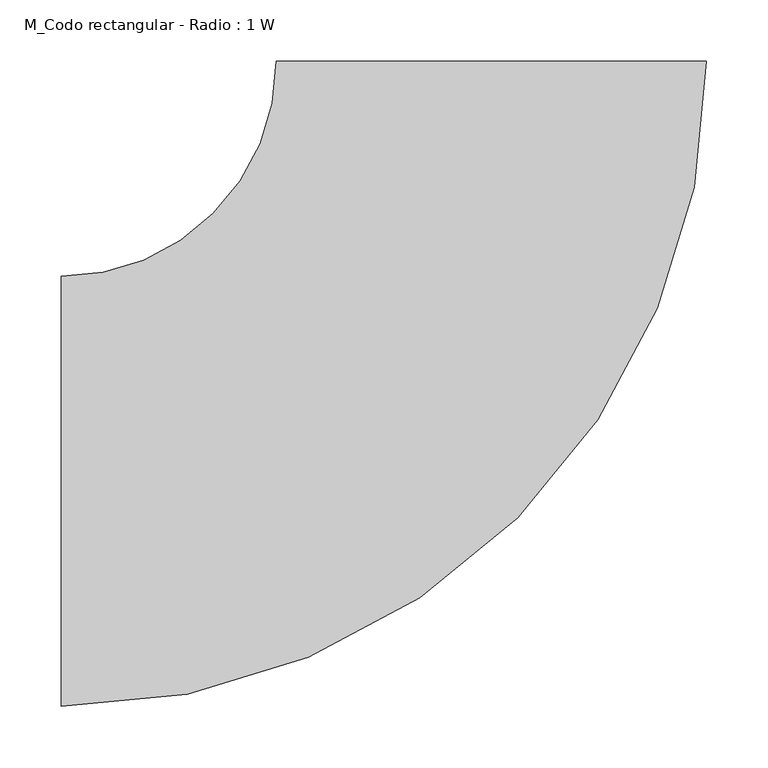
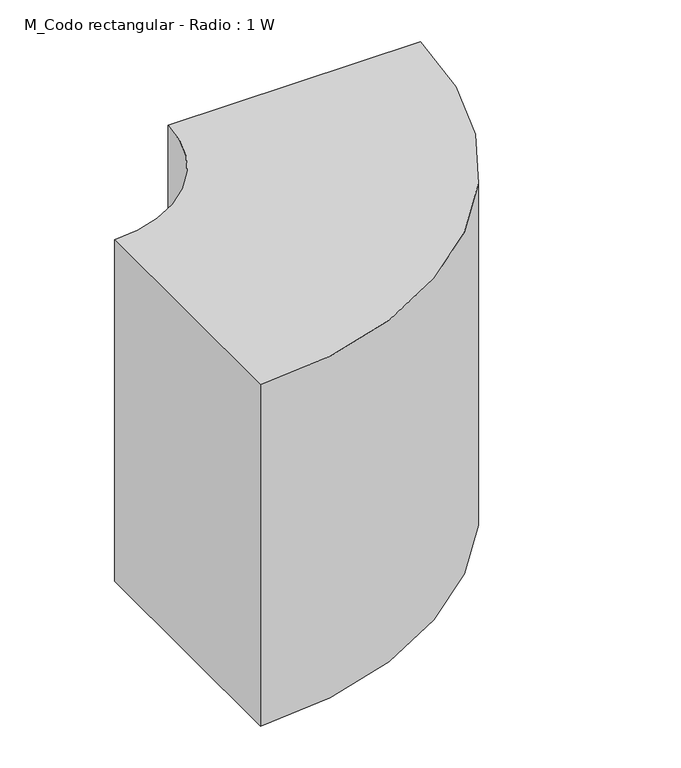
"""IFC4 building model written with IfcOpenShell, lengths in millimetres: duct fitting geometry, M_Codo rectangular - Radio : 1 W."""

import ifcopenshell
import ifcopenshell.guid

model = None  # the IFC model being written
_history = None  # IfcOwnerHistory: only IFC2X3 demands one
_inside = {}  # id of a spatial element -> (the spatial element, [elements in it])
_under = {}  # id of a project, library or spatial element -> (it, [spatial elements below it])
_declared = {}  # id of a project -> (the project, [libraries it declares])
_typed = {}  # id of a type object -> (the type object, [elements of that type])
_made_of = {}  # id of a material, layer set ... -> (it, [elements and type objects made of it])


def new_model(schema):
    """Start an empty IFC model of exactly this schema.

    Asked for "IFC4X3", IfcOpenShell would pick the latest addendum, in which some entities
    have other attributes; the version numbers below select the first issue.
    IFC2X3 requires an IfcOwnerHistory on every rooted entity: one is made here for all.
    """
    global model, _history
    if schema == "IFC4X3":
        model = ifcopenshell.file(schema_version=(4, 3, 0, 0))
    else:
        model = ifcopenshell.file(schema=schema)
    _inside.clear()
    _under.clear()
    _declared.clear()
    _typed.clear()
    _made_of.clear()
    _history = None
    if model.schema == "IFC2X3":
        org = make("IfcOrganization", Name="unknown")
        user = make(
            "IfcPersonAndOrganization",
            ThePerson=make("IfcPerson", FamilyName="unknown"),
            TheOrganization=org,
        )
        app = make(
            "IfcApplication",
            ApplicationDeveloper=org,
            Version="unknown",
            ApplicationFullName="unknown",
            ApplicationIdentifier="unknown",
        )
        _history = make(
            "IfcOwnerHistory",
            OwningUser=user,
            OwningApplication=app,
            ChangeAction="ADDED",
            CreationDate=0,
        )
    return model


def make(cls, **values):
    """One entity of the class cls with the attributes given. An attribute that is None is left unset."""
    return model.create_entity(
        cls, **{name: value for name, value in values.items() if value is not None}
    )


def rooted(cls, **values):
    """An entity with a GlobalId (a new one), such as an element, a storey or a relation."""
    return make(cls, GlobalId=ifcopenshell.guid.new(), OwnerHistory=_history, **values)


def si_unit(unit_type, name, prefix=None):
    """IfcSIUnit, for example si_unit("LENGTHUNIT", "METRE", prefix="MILLI")."""
    return make("IfcSIUnit", UnitType=unit_type, Prefix=prefix, Name=name)


def assignment(units):
    """IfcUnitAssignment: the units of a project."""
    return None if units is None else make("IfcUnitAssignment", Units=units)


def point(xyz):
    """IfcCartesianPoint."""
    return None if xyz is None else make("IfcCartesianPoint", Coordinates=xyz)


def direction(xyz):
    """IfcDirection."""
    return None if xyz is None else make("IfcDirection", DirectionRatios=xyz)


def frame(location, z_axis=None, x_axis=None):
    """IfcAxis2Placement3D, a coordinate frame: its origin and axes. An axis left out is left unset."""
    return make(
        "IfcAxis2Placement3D",
        Location=point(location),
        Axis=direction(z_axis),
        RefDirection=direction(x_axis),
    )


def frame_2d(location, x_axis=None):
    """IfcAxis2Placement2D, a coordinate frame in the plane: its origin and x axis."""
    return make(
        "IfcAxis2Placement2D", Location=point(location), RefDirection=direction(x_axis)
    )


def origin():
    """The frame at (0, 0, 0) with its axes left unset."""
    return frame((0.0, 0.0, 0.0))


def place(relative_to, where):
    """IfcLocalPlacement: puts the frame where relative to a parent placement (None: the world)."""
    return make(
        "IfcLocalPlacement", PlacementRelTo=relative_to, RelativePlacement=where
    )


def context(
    kind, dimensions, precision=None, world=None, true_north=None, identifier=None
):
    """IfcGeometricRepresentationContext, for example the 3D "Model" context."""
    return make(
        "IfcGeometricRepresentationContext",
        ContextIdentifier=identifier,
        ContextType=kind,
        CoordinateSpaceDimension=dimensions,
        Precision=precision,
        WorldCoordinateSystem=world,
        TrueNorth=true_north,
    )


def project(units=None, contexts=None):
    """IfcProject with its units and contexts."""
    return rooted(
        "IfcProject",
        Name="project",
        RepresentationContexts=contexts,
        UnitsInContext=assignment(units),
    )


def spatial(cls, under=None, at=None, **own):
    """A site, building, storey or space (cls), placed at a placement, below another one or the project."""
    s = rooted(cls, ObjectPlacement=at, **own)
    if under is not None:
        _under.setdefault(under.id(), (under, []))[1].append(s)
    return s


def polyline(points):
    """IfcPolyline through the points."""
    return make("IfcPolyline", Points=[point(p) for p in points])


def circle_curve(where, radius):
    """IfcCircle in the frame where."""
    return make("IfcCircle", Position=where, Radius=radius)


def trimmed(basis, trim1, trim2, sense, master):
    """IfcTrimmedCurve: the piece of a basis curve between two trims."""
    return make(
        "IfcTrimmedCurve",
        BasisCurve=basis,
        Trim1=trim1,
        Trim2=trim2,
        SenseAgreement=sense,
        MasterRepresentation=master,
    )


def segment(curve, same_sense, transition):
    """IfcCompositeCurveSegment."""
    return make(
        "IfcCompositeCurveSegment",
        Transition=transition,
        SameSense=same_sense,
        ParentCurve=curve,
    )


def composite_curve(segments, self_intersect=None):
    """IfcCompositeCurve: segments joined end to end."""
    return make("IfcCompositeCurve", Segments=segments, SelfIntersect=self_intersect)


def outline(outer, holes=None, kind="AREA"):
    """IfcArbitraryClosedProfileDef: a profile drawn as a closed curve; with holes, ...WithVoids."""
    if holes is None:
        return make("IfcArbitraryClosedProfileDef", ProfileType=kind, OuterCurve=outer)
    return make(
        "IfcArbitraryProfileDefWithVoids",
        ProfileType=kind,
        OuterCurve=outer,
        InnerCurves=holes,
    )


def extrude(swept, where, along, depth):
    """IfcExtrudedAreaSolid: the profile swept, set in the frame where, extruded along a direction by depth."""
    return make(
        "IfcExtrudedAreaSolid",
        SweptArea=swept,
        Position=where,
        ExtrudedDirection=direction(along),
        Depth=depth,
    )


def shape(context_of_items, identifier, shape_type, items):
    """IfcShapeRepresentation: the items that make up one representation, for example the "Body"."""
    return make(
        "IfcShapeRepresentation",
        ContextOfItems=context_of_items,
        RepresentationIdentifier=identifier,
        RepresentationType=shape_type,
        Items=items,
    )


def source(mapping_origin, context_of_items, identifier, shape_type, items):
    """IfcRepresentationMap: a shape defined once, which mapped items show again and again."""
    return make(
        "IfcRepresentationMap",
        MappingOrigin=mapping_origin,
        MappedRepresentation=shape(context_of_items, identifier, shape_type, items),
    )


def transform(
    local_origin,
    x_axis=None,
    y_axis=None,
    z_axis=None,
    scale=None,
    scale2=None,
    scale3=None,
    uniform=True,
):
    """IfcCartesianTransformationOperator3D, or its non-uniform kind. x_axis, y_axis, z_axis: its Axis1, 2, 3."""
    if uniform:
        return make(
            "IfcCartesianTransformationOperator3D",
            Axis1=direction(x_axis),
            Axis2=direction(y_axis),
            LocalOrigin=point(local_origin),
            Scale=scale,
            Axis3=direction(z_axis),
        )
    return make(
        "IfcCartesianTransformationOperator3DnonUniform",
        Axis1=direction(x_axis),
        Axis2=direction(y_axis),
        LocalOrigin=point(local_origin),
        Scale=scale,
        Axis3=direction(z_axis),
        Scale2=scale2,
        Scale3=scale3,
    )


def mapped(mapping_source, mapping_target):
    """IfcMappedItem: shows the shape of a source again, moved by a transform."""
    return make(
        "IfcMappedItem", MappingSource=mapping_source, MappingTarget=mapping_target
    )


def made_of(thing, what):
    """Note that an element or type object is made of a material, layer set ...; save() writes the relation."""
    if what is not None:
        _made_of.setdefault(what.id(), (what, []))[1].append(thing)
    return thing


def element(
    cls,
    number,
    at=None,
    inside=None,
    cuts=None,
    type_object=None,
    material=None,
    context=None,
    identifier="Body",
    shape_type=None,
    held_by="IfcProductDefinitionShape",
    body=None,
    shapes=None,
    **own,
):
    """One element of the class cls, such as IfcWall. Its Tag is "e" and its number.

    at: its placement. inside: the storey or other place that contains it. cuts: it is an
    opening in that element (IfcRelVoidsElement). A single representation is given by context,
    identifier, shape_type and body (its items); several are given by shapes. held_by: the class
    of the entity that holds the representations. save() writes the other relations.
    """
    e = rooted(cls, Tag="e%d" % number, ObjectPlacement=at, **own)
    if body is not None:
        shapes = [shape(context, identifier, shape_type, body)]
    if shapes is not None:
        e.Representation = make(held_by, Representations=shapes)
    if inside is not None:
        _inside.setdefault(inside.id(), (inside, []))[1].append(e)
    if cuts is not None:
        rooted(
            "IfcRelVoidsElement", RelatingBuildingElement=cuts, RelatedOpeningElement=e
        )
    if type_object is not None:
        _typed.setdefault(type_object.id(), (type_object, []))[1].append(e)
    return made_of(e, material)


def aggregate(whole, parts):
    """IfcRelAggregates: a whole, such as a stair, and the parts it consists of."""
    return rooted("IfcRelAggregates", RelatingObject=whole, RelatedObjects=parts)


def save(model, path):
    """Write the relations noted so far, then the file.

    IfcRelAggregates (storeys below a building ...), IfcRelContainedInSpatialStructure (elements
    in a storey), IfcRelDefinesByType, IfcRelAssociatesMaterial and IfcRelDeclares: one each for
    every whole, place, type object, material and project.
    """
    for whole, parts in _under.values():
        aggregate(whole, parts)
    for where, things in _inside.values():
        rooted(
            "IfcRelContainedInSpatialStructure",
            RelatedElements=things,
            RelatingStructure=where,
        )
    for kind, things in _typed.values():
        rooted("IfcRelDefinesByType", RelatedObjects=things, RelatingType=kind)
    for what, things in _made_of.values():
        rooted("IfcRelAssociatesMaterial", RelatedObjects=things, RelatingMaterial=what)
    for by, libraries in _declared.values():
        rooted("IfcRelDeclares", RelatingContext=by, RelatedDefinitions=libraries)
    model.write(path)


def m_codo_rectangular_radio_1_w_41eb0295(model_context):
    return source(origin(), model_context, "Body", "SweptSolid", [
        extrude(outline(composite_curve([segment(trimmed(circle_curve(frame_2d((-350.0, 350.0)), 525.0), [point((175.0, 350.0))], [point((-350.0, -175.0))], False, "CARTESIAN"), True, "CONTINUOUS"), segment(polyline([(-350.0, -175.0), (-350.0, 175.0)]), True, "CONTINUOUS"), segment(trimmed(circle_curve(frame_2d((-350.0, 350.0)), 175.0), [point((-350.0, 175.0))], [point((-175.0, 350.0))], True, "CARTESIAN"), True, "CONTINUOUS"), segment(polyline([(-175.0, 350.0), (175.0, 350.0)]), True, "CONTINUOUS")], self_intersect=False)), frame((0.0, 0.0, -250.0), z_axis=(0.0, 0.0, 1.0), x_axis=(1.0, 0.0, 0.0)), (0.0, 0.0, 1.0), 500.0),
    ])


if __name__ == "__main__":
    model = new_model("IFC4")
    model_context = context("Model", 3, world=origin())
    ifc_project = project(units=[si_unit("LENGTHUNIT", "METRE", prefix="MILLI")], contexts=[model_context])
    site = spatial("IfcSite", under=ifc_project)
    building = spatial("IfcBuilding", under=site)
    placement = place(None, origin())
    m_codo_rectangular_radio_1_w_shape = m_codo_rectangular_radio_1_w_41eb0295(model_context)
    element("IfcDuctFitting", 1, ObjectType="M_Codo rectangular - Radio : 1 W", at=placement, inside=building, context=model_context, shape_type="MappedRepresentation", body=[
        mapped(m_codo_rectangular_radio_1_w_shape, transform((0.0, 0.0, 0.0), x_axis=(1.0, 0.0, 0.0), y_axis=(0.0, 1.0, 0.0), z_axis=(0.0, 0.0, 1.0))),
    ])
    save(model, "model.ifc")
